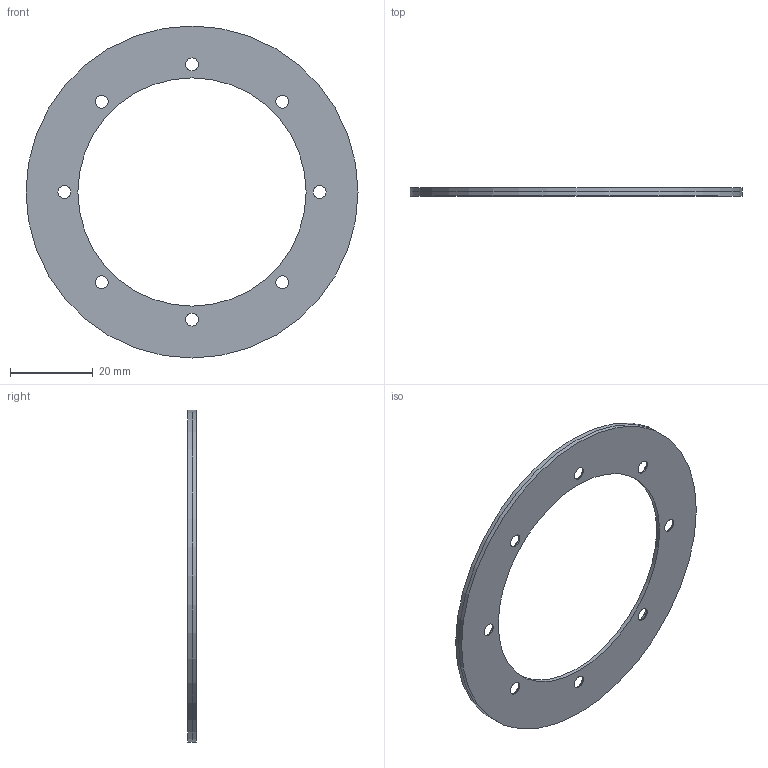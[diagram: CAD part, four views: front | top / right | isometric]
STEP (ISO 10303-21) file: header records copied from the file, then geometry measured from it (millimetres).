
FILE_DESCRIPTION(/* description */ (''),/* implementation_level */ '2;1');
FILE_NAME(/* name */ 'C:\Users\hnc\Desktop\엔코더\Bearingless type\Axail type\AH80-55-32-31-1.28-HN-AL\AH80-55-32-31-1.28-HN-AL.stp',/* time_stamp */ '2023-05-28T23:06:24+09:00',/* author */ ('hnc'),/* organization */ (''),/* preprocessor_version */ 'ST-DEVELOPER v18.1',/* originating_system */ 'Autodesk Inventor 2021',/* authorisation */ '');
FILE_SCHEMA (('AUTOMOTIVE_DESIGN { 1 0 10303 214 3 1 1 }'));
Length unit declared in the file: inch
Products named in the file (3): AH80-55-32-31-1.28-HN-AL; AH80-55-AL_BASE; AH80-55-MAGNET
Assembly tree (2 placements, depth 2):
  AH80-55-32-31-1.28-HN-AL
    AH80-55-AL_BASE
    AH80-55-MAGNET
Bounding box: 80 x 2 x 80 mm (x, y, z)
Volume: 3959.8 mm3; surface area: 8909 mm2
Topology: 2 solids, 2 shells, 24 faces, 84 edges, 64 vertices
Faces by surface type: cylinder 12, cone 8, plane 4
Full cylindrical faces by diameter (mm): 3.1 x8, 55 x1, 68 x1, 80 x2
Entity records: 1143 total; most frequent: DIRECTION 206, CARTESIAN_POINT 177, ORIENTED_EDGE 168, AXIS2_PLACEMENT_3D 93, EDGE_CURVE 84, CIRCLE 64, VERTEX_POINT 64, EDGE_LOOP 44
